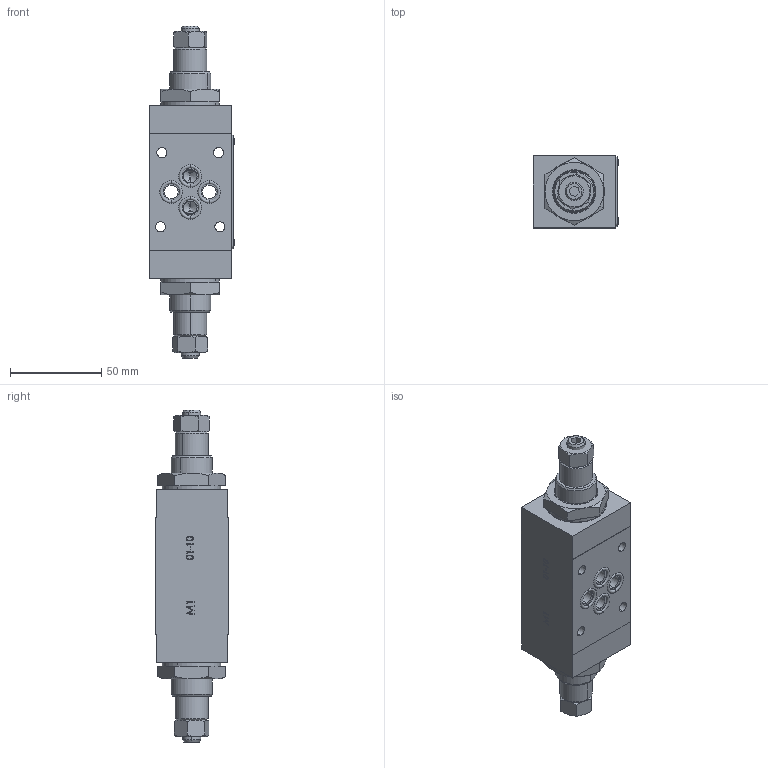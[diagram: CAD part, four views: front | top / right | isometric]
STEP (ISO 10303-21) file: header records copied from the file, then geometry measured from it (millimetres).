
FILE_DESCRIPTION (( 'STEP AP214' ), '1' );
FILE_NAME ('FT358-5-AB-03-H.STEP', '2014-06-18T06:32:29', ( '' ), ( '' ), 'SwSTEP 2.0', 'SolidWorks 2014', '' );
FILE_SCHEMA (( 'AUTOMOTIVE_DESIGN' ));
Length unit declared in the file: millimetre
Products named in the file (17): 358-5AB012000; OR2037; OR2068; OR132; AnelloFermoFT1251_2-01-12; BK2018; OR2018; 267-5-018000-38; 358-5-AB017000; 267-5-008001-38; 267-5-002001-38; 257-6-009000-38; 357-5-AB101000; RivettoTarga; 358-5-AB015000-H; 357-5-AB001000-H; FT358-5-AB-03-H
Assembly tree (34 placements, depth 2):
  FT358-5-AB-03-H
    357-5-AB001000-H
    358-5-AB015000-H
    RivettoTarga  x4
    357-5-AB101000  x2
    257-6-009000-38  x2
    267-5-002001-38  x2
    267-5-008001-38  x2
    358-5-AB017000  x2
    267-5-018000-38  x2
    OR2018  x2
    BK2018  x2
    AnelloFermoFT1251_2-01-12  x2
    OR132  x2
    OR2068  x2
    OR2037  x4
    358-5AB012000  x2
Bounding box: 46.96 x 40.38 x 181.6 mm (x, y, z)
Volume: 188870.8 mm3; surface area: 73001.8 mm2
Topology: 34 solids, 34 shells, 2233 faces, 5550 edges, 3556 vertices
Faces by surface type: plane 1112, cylinder 418, bspline 387, cone 260, torus 56
Entity records: 93716 total; most frequent: CARTESIAN_POINT 36683, ORIENTED_EDGE 9336, DIRECTION 7365, EDGE_CURVE 4668, VECTOR 3165, LINE 3165, VERTEX_POINT 3044, AXIS2_PLACEMENT_3D 2100
